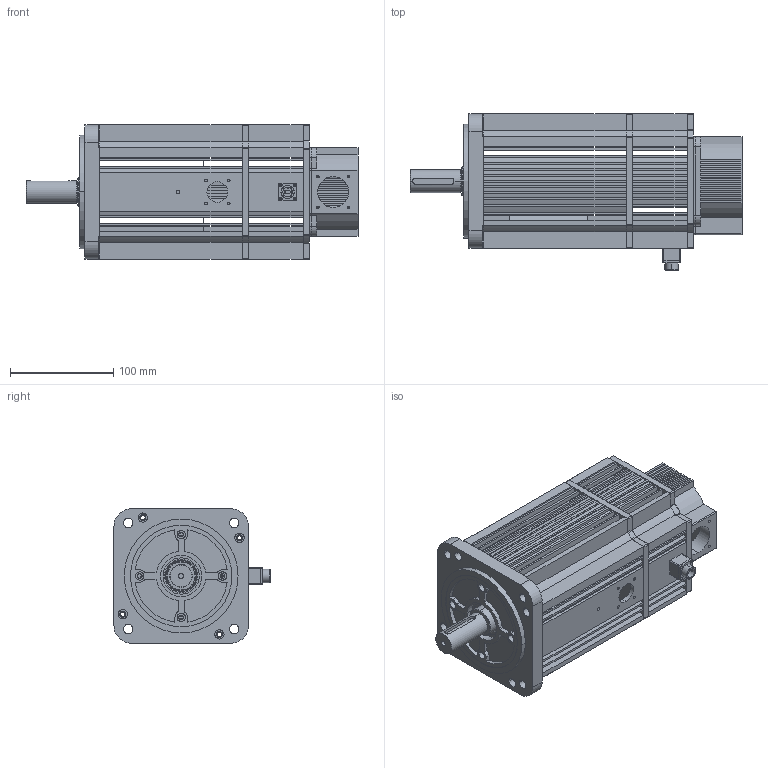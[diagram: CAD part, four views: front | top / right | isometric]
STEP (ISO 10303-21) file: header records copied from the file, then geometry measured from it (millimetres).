
FILE_DESCRIPTION (( 'STEP AP203' ), '1' );
FILE_NAME ('MS-130STE-M10015BZ-21P5.STEP', '2019-12-13T07:17:17', ( '' ), ( '' ), 'SwSTEP 2.0', 'SolidWorks 2016', '' );
FILE_SCHEMA (( 'CONFIG_CONTROL_DESIGN' ));
Length unit declared in the file: millimetre
Products named in the file (1): MS-130STE-M10015BZ-21P5
Bounding box: 321 x 151 x 130 mm (x, y, z)
Surface area: 270421.2 mm2 (no closed solid volume)
Topology: 0 solids, 33 shells, 813 faces, 2691 edges, 1907 vertices
Faces by surface type: plane 506, cylinder 297, cone 8, torus 2
Entity records: 29976 total; most frequent: CARTESIAN_POINT 5878, DIRECTION 5121, ORIENTED_EDGE 4608, EDGE_CURVE 2691, VERTEX_POINT 1907, VECTOR 1853, LINE 1853, AXIS2_PLACEMENT_3D 1634
